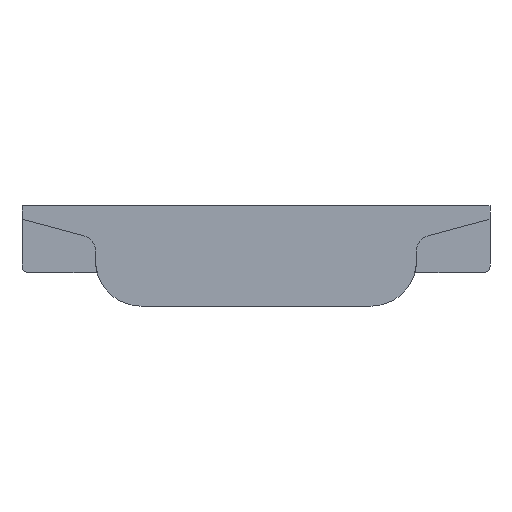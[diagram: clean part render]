
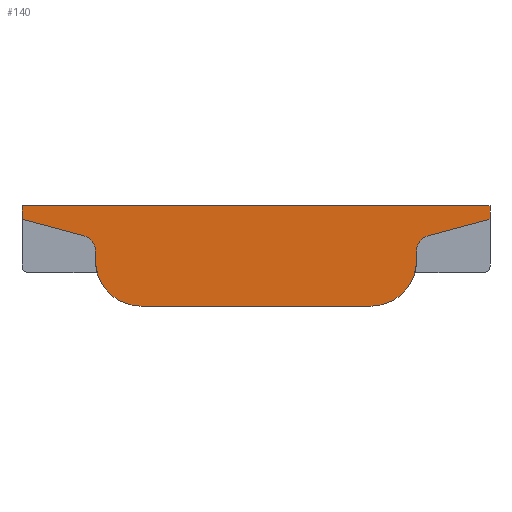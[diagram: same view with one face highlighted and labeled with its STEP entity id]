
A CAD part, front view. The second image highlights one B-rep face of the part: STEP entity #140.
In plain terms, the highlighted planar face has unit normal (0, -1, 0).
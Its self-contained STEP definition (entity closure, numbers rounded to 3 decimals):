
#140 = ADVANCED_FACE( '', ( #330 ), #331, .T. );
#330 = FACE_OUTER_BOUND( '', #571, .T. );
#331 = PLANE( '', #572 );
#571 = EDGE_LOOP( '', ( #923, #924, #925, #926, #927, #928, #929, #930, #931, #932, #933, #934 ) );
#572 = AXIS2_PLACEMENT_3D( '', #935, #936, #937 );
#923 = ORIENTED_EDGE( '', *, *, #1581, .T. );
#924 = ORIENTED_EDGE( '', *, *, #1582, .T. );
#925 = ORIENTED_EDGE( '', *, *, #1527, .T. );
#926 = ORIENTED_EDGE( '', *, *, #1583, .T. );
#927 = ORIENTED_EDGE( '', *, *, #1522, .T. );
#928 = ORIENTED_EDGE( '', *, *, #1584, .T. );
#929 = ORIENTED_EDGE( '', *, *, #1585, .T. );
#930 = ORIENTED_EDGE( '', *, *, #1586, .T. );
#931 = ORIENTED_EDGE( '', *, *, #1587, .T. );
#932 = ORIENTED_EDGE( '', *, *, #1588, .T. );
#933 = ORIENTED_EDGE( '', *, *, #1589, .T. );
#934 = ORIENTED_EDGE( '', *, *, #1590, .T. );
#935 = CARTESIAN_POINT( '', ( -8.6, -34.85, 3.4 ) );
#936 = DIRECTION( '', ( 0., -1., 0. ) );
#937 = DIRECTION( '', ( 0., 0., -1. ) );
#1522 = EDGE_CURVE( '', #1844, #1849, #1851, .T. );
#1527 = EDGE_CURVE( '', #1853, #1858, #1860, .T. );
#1581 = EDGE_CURVE( '', #1949, #1950, #1951, .T. );
#1582 = EDGE_CURVE( '', #1950, #1853, #1952, .T. );
#1583 = EDGE_CURVE( '', #1858, #1844, #1953, .T. );
#1584 = EDGE_CURVE( '', #1849, #1954, #1955, .T. );
#1585 = EDGE_CURVE( '', #1954, #1956, #1957, .T. );
#1586 = EDGE_CURVE( '', #1956, #1958, #1959, .T. );
#1587 = EDGE_CURVE( '', #1958, #1960, #1961, .T. );
#1588 = EDGE_CURVE( '', #1960, #1962, #1963, .T. );
#1589 = EDGE_CURVE( '', #1962, #1964, #1965, .T. );
#1590 = EDGE_CURVE( '', #1964, #1949, #1966, .T. );
#1844 = VERTEX_POINT( '', #2297 );
#1849 = VERTEX_POINT( '', #2304 );
#1851 = LINE( '', #2307, #2308 );
#1853 = VERTEX_POINT( '', #2310 );
#1858 = VERTEX_POINT( '', #2317 );
#1860 = LINE( '', #2320, #2321 );
#1949 = VERTEX_POINT( '', #2440 );
#1950 = VERTEX_POINT( '', #2441 );
#1951 = LINE( '', #2442, #2443 );
#1952 = LINE( '', #2444, #2445 );
#1953 = CIRCLE( '', #2446, 1.2 );
#1954 = VERTEX_POINT( '', #2447 );
#1955 = CIRCLE( '', #2448, 3.4 );
#1956 = VERTEX_POINT( '', #2449 );
#1957 = LINE( '', #2450, #2451 );
#1958 = VERTEX_POINT( '', #2452 );
#1959 = CIRCLE( '', #2453, 3.4 );
#1960 = VERTEX_POINT( '', #2454 );
#1961 = LINE( '', #2455, #2456 );
#1962 = VERTEX_POINT( '', #2457 );
#1963 = CIRCLE( '', #2458, 1.2 );
#1964 = VERTEX_POINT( '', #2459 );
#1965 = LINE( '', #2460, #2461 );
#1966 = LINE( '', #2462, #2463 );
#2297 = CARTESIAN_POINT( '', ( -12., -34.85, 4.105 ) );
#2304 = CARTESIAN_POINT( '', ( -12., -34.85, 3.4 ) );
#2307 = CARTESIAN_POINT( '', ( -12., -34.85, 4.105 ) );
#2308 = VECTOR( '', #2835, 1000. );
#2310 = CARTESIAN_POINT( '', ( -17.5, -34.85, 6.5 ) );
#2317 = CARTESIAN_POINT( '', ( -12.889, -34.85, 5.265 ) );
#2320 = CARTESIAN_POINT( '', ( -17.5, -34.85, 6.5 ) );
#2321 = VECTOR( '', #2839, 1000. );
#2440 = CARTESIAN_POINT( '', ( 17.5, -34.85, 7.5 ) );
#2441 = CARTESIAN_POINT( '', ( -17.5, -34.85, 7.5 ) );
#2442 = CARTESIAN_POINT( '', ( 13.2, -34.85, 7.5 ) );
#2443 = VECTOR( '', #2906, 1000. );
#2444 = CARTESIAN_POINT( '', ( -17.5, -34.85, 7.5 ) );
#2445 = VECTOR( '', #2907, 1000. );
#2446 = AXIS2_PLACEMENT_3D( '', #2908, #2909, #2910 );
#2447 = CARTESIAN_POINT( '', ( -8.6, -34.85, 0. ) );
#2448 = AXIS2_PLACEMENT_3D( '', #2911, #2912, #2913 );
#2449 = CARTESIAN_POINT( '', ( 8.6, -34.85, 0. ) );
#2450 = CARTESIAN_POINT( '', ( -8.6, -34.85, 0. ) );
#2451 = VECTOR( '', #2914, 1000. );
#2452 = CARTESIAN_POINT( '', ( 12., -34.85, 3.4 ) );
#2453 = AXIS2_PLACEMENT_3D( '', #2915, #2916, #2917 );
#2454 = CARTESIAN_POINT( '', ( 12., -34.85, 4.105 ) );
#2455 = CARTESIAN_POINT( '', ( 12., -34.85, 4.105 ) );
#2456 = VECTOR( '', #2918, 1000. );
#2457 = CARTESIAN_POINT( '', ( 12.889, -34.85, 5.265 ) );
#2458 = AXIS2_PLACEMENT_3D( '', #2919, #2920, #2921 );
#2459 = CARTESIAN_POINT( '', ( 17.5, -34.85, 6.5 ) );
#2460 = CARTESIAN_POINT( '', ( 17.5, -34.85, 6.5 ) );
#2461 = VECTOR( '', #2922, 1000. );
#2462 = CARTESIAN_POINT( '', ( 17.5, -34.85, 7.5 ) );
#2463 = VECTOR( '', #2923, 1000. );
#2835 = DIRECTION( '', ( 0., 0., -1. ) );
#2839 = DIRECTION( '', ( 0.966, 0., -0.259 ) );
#2906 = DIRECTION( '', ( -1., 0., 0. ) );
#2907 = DIRECTION( '', ( 0., 0., -1. ) );
#2908 = CARTESIAN_POINT( '', ( -13.2, -34.85, 4.105 ) );
#2909 = DIRECTION( '', ( 0., 1., 0. ) );
#2910 = DIRECTION( '', ( -1., 0., 0. ) );
#2911 = CARTESIAN_POINT( '', ( -8.6, -34.85, 3.4 ) );
#2912 = DIRECTION( '', ( 0., -1., 0. ) );
#2913 = DIRECTION( '', ( 1., 0., 0. ) );
#2914 = DIRECTION( '', ( 1., 0., 0. ) );
#2915 = CARTESIAN_POINT( '', ( 8.6, -34.85, 3.4 ) );
#2916 = DIRECTION( '', ( 0., -1., 0. ) );
#2917 = DIRECTION( '', ( -1., 0., 0. ) );
#2918 = DIRECTION( '', ( 0., 0., 1. ) );
#2919 = CARTESIAN_POINT( '', ( 13.2, -34.85, 4.105 ) );
#2920 = DIRECTION( '', ( 0., 1., 0. ) );
#2921 = DIRECTION( '', ( 1., 0., 0. ) );
#2922 = DIRECTION( '', ( 0.966, 0., 0.259 ) );
#2923 = DIRECTION( '', ( 0., 0., 1. ) );
